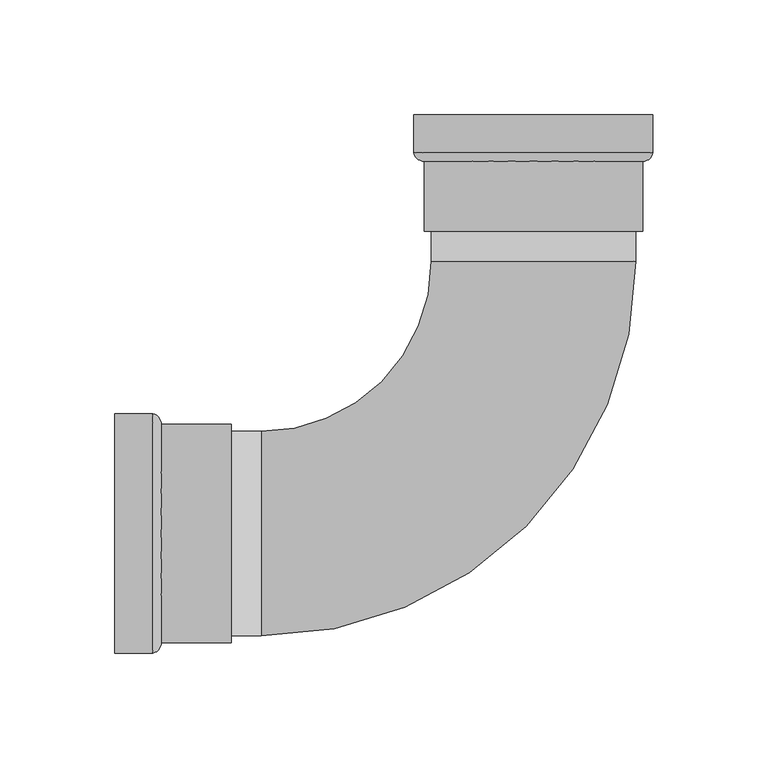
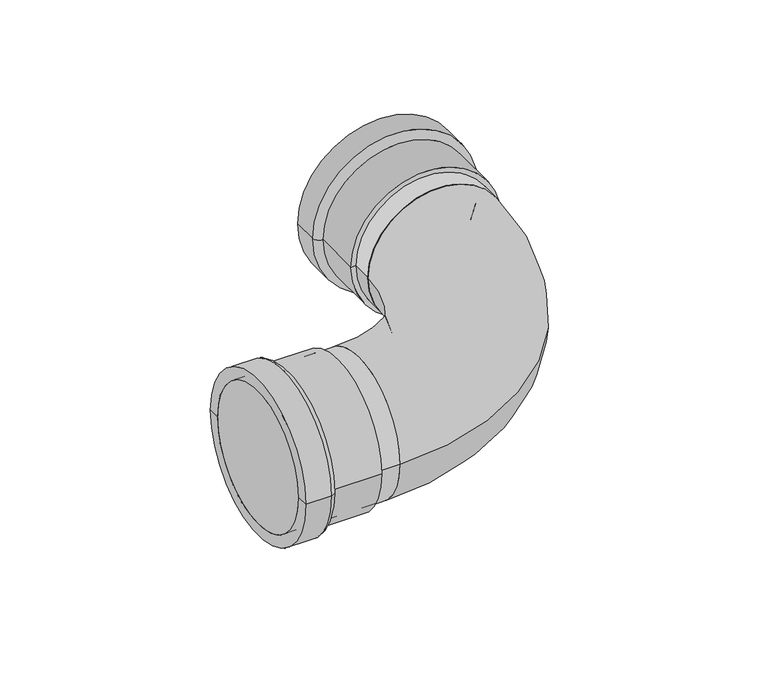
"""IFC4 building model written with IfcOpenShell, lengths in millimetres: pipe fitting geometry, VALTEC_VTi.951.I_Угольник 90° (раструб-раструб) нержавеющая сталь : VTi.951.I."""

import ifcopenshell
import ifcopenshell.guid

model = None  # the IFC model being written
_history = None  # IfcOwnerHistory: only IFC2X3 demands one
_inside = {}  # id of a spatial element -> (the spatial element, [elements in it])
_under = {}  # id of a project, library or spatial element -> (it, [spatial elements below it])
_declared = {}  # id of a project -> (the project, [libraries it declares])
_typed = {}  # id of a type object -> (the type object, [elements of that type])
_made_of = {}  # id of a material, layer set ... -> (it, [elements and type objects made of it])


def new_model(schema):
    """Start an empty IFC model of exactly this schema.

    Asked for "IFC4X3", IfcOpenShell would pick the latest addendum, in which some entities
    have other attributes; the version numbers below select the first issue.
    IFC2X3 requires an IfcOwnerHistory on every rooted entity: one is made here for all.
    """
    global model, _history
    if schema == "IFC4X3":
        model = ifcopenshell.file(schema_version=(4, 3, 0, 0))
    else:
        model = ifcopenshell.file(schema=schema)
    _inside.clear()
    _under.clear()
    _declared.clear()
    _typed.clear()
    _made_of.clear()
    _history = None
    if model.schema == "IFC2X3":
        org = make("IfcOrganization", Name="unknown")
        user = make(
            "IfcPersonAndOrganization",
            ThePerson=make("IfcPerson", FamilyName="unknown"),
            TheOrganization=org,
        )
        app = make(
            "IfcApplication",
            ApplicationDeveloper=org,
            Version="unknown",
            ApplicationFullName="unknown",
            ApplicationIdentifier="unknown",
        )
        _history = make(
            "IfcOwnerHistory",
            OwningUser=user,
            OwningApplication=app,
            ChangeAction="ADDED",
            CreationDate=0,
        )
    return model


def make(cls, **values):
    """One entity of the class cls with the attributes given. An attribute that is None is left unset."""
    return model.create_entity(
        cls, **{name: value for name, value in values.items() if value is not None}
    )


def rooted(cls, **values):
    """An entity with a GlobalId (a new one), such as an element, a storey or a relation."""
    return make(cls, GlobalId=ifcopenshell.guid.new(), OwnerHistory=_history, **values)


def si_unit(unit_type, name, prefix=None):
    """IfcSIUnit, for example si_unit("LENGTHUNIT", "METRE", prefix="MILLI")."""
    return make("IfcSIUnit", UnitType=unit_type, Prefix=prefix, Name=name)


def assignment(units):
    """IfcUnitAssignment: the units of a project."""
    return None if units is None else make("IfcUnitAssignment", Units=units)


def point(xyz):
    """IfcCartesianPoint."""
    return None if xyz is None else make("IfcCartesianPoint", Coordinates=xyz)


def direction(xyz):
    """IfcDirection."""
    return None if xyz is None else make("IfcDirection", DirectionRatios=xyz)


def frame(location, z_axis=None, x_axis=None):
    """IfcAxis2Placement3D, a coordinate frame: its origin and axes. An axis left out is left unset."""
    return make(
        "IfcAxis2Placement3D",
        Location=point(location),
        Axis=direction(z_axis),
        RefDirection=direction(x_axis),
    )


def frame_2d(location, x_axis=None):
    """IfcAxis2Placement2D, a coordinate frame in the plane: its origin and x axis."""
    return make(
        "IfcAxis2Placement2D", Location=point(location), RefDirection=direction(x_axis)
    )


def origin():
    """The frame at (0, 0, 0) with its axes left unset."""
    return frame((0.0, 0.0, 0.0))


def origin_2d():
    """The frame at (0, 0) in the plane with its x axis left unset."""
    return frame_2d((0.0, 0.0))


def place(relative_to, where):
    """IfcLocalPlacement: puts the frame where relative to a parent placement (None: the world)."""
    return make(
        "IfcLocalPlacement", PlacementRelTo=relative_to, RelativePlacement=where
    )


def context(
    kind, dimensions, precision=None, world=None, true_north=None, identifier=None
):
    """IfcGeometricRepresentationContext, for example the 3D "Model" context."""
    return make(
        "IfcGeometricRepresentationContext",
        ContextIdentifier=identifier,
        ContextType=kind,
        CoordinateSpaceDimension=dimensions,
        Precision=precision,
        WorldCoordinateSystem=world,
        TrueNorth=true_north,
    )


def project(units=None, contexts=None):
    """IfcProject with its units and contexts."""
    return rooted(
        "IfcProject",
        Name="project",
        RepresentationContexts=contexts,
        UnitsInContext=assignment(units),
    )


def spatial(cls, under=None, at=None, **own):
    """A site, building, storey or space (cls), placed at a placement, below another one or the project."""
    s = rooted(cls, ObjectPlacement=at, **own)
    if under is not None:
        _under.setdefault(under.id(), (under, []))[1].append(s)
    return s


def polyline(points):
    """IfcPolyline through the points."""
    return make("IfcPolyline", Points=[point(p) for p in points])


def circle_curve(where, radius):
    """IfcCircle in the frame where."""
    return make("IfcCircle", Position=where, Radius=radius)


def ellipse_curve(where, semi_axis1, semi_axis2):
    """IfcEllipse in the frame where."""
    return make(
        "IfcEllipse", Position=where, SemiAxis1=semi_axis1, SemiAxis2=semi_axis2
    )


def trimmed(basis, trim1, trim2, sense, master):
    """IfcTrimmedCurve: the piece of a basis curve between two trims."""
    return make(
        "IfcTrimmedCurve",
        BasisCurve=basis,
        Trim1=trim1,
        Trim2=trim2,
        SenseAgreement=sense,
        MasterRepresentation=master,
    )


def segment(curve, same_sense, transition):
    """IfcCompositeCurveSegment."""
    return make(
        "IfcCompositeCurveSegment",
        Transition=transition,
        SameSense=same_sense,
        ParentCurve=curve,
    )


def composite_curve(segments, self_intersect=None):
    """IfcCompositeCurve: segments joined end to end."""
    return make("IfcCompositeCurve", Segments=segments, SelfIntersect=self_intersect)


def outline(outer, holes=None, kind="AREA"):
    """IfcArbitraryClosedProfileDef: a profile drawn as a closed curve; with holes, ...WithVoids."""
    if holes is None:
        return make("IfcArbitraryClosedProfileDef", ProfileType=kind, OuterCurve=outer)
    return make(
        "IfcArbitraryProfileDefWithVoids",
        ProfileType=kind,
        OuterCurve=outer,
        InnerCurves=holes,
    )


def extrude(swept, where, along, depth):
    """IfcExtrudedAreaSolid: the profile swept, set in the frame where, extruded along a direction by depth."""
    return make(
        "IfcExtrudedAreaSolid",
        SweptArea=swept,
        Position=where,
        ExtrudedDirection=direction(along),
        Depth=depth,
    )


def shape(context_of_items, identifier, shape_type, items):
    """IfcShapeRepresentation: the items that make up one representation, for example the "Body"."""
    return make(
        "IfcShapeRepresentation",
        ContextOfItems=context_of_items,
        RepresentationIdentifier=identifier,
        RepresentationType=shape_type,
        Items=items,
    )


def source(mapping_origin, context_of_items, identifier, shape_type, items):
    """IfcRepresentationMap: a shape defined once, which mapped items show again and again."""
    return make(
        "IfcRepresentationMap",
        MappingOrigin=mapping_origin,
        MappedRepresentation=shape(context_of_items, identifier, shape_type, items),
    )


def transform(
    local_origin,
    x_axis=None,
    y_axis=None,
    z_axis=None,
    scale=None,
    scale2=None,
    scale3=None,
    uniform=True,
):
    """IfcCartesianTransformationOperator3D, or its non-uniform kind. x_axis, y_axis, z_axis: its Axis1, 2, 3."""
    if uniform:
        return make(
            "IfcCartesianTransformationOperator3D",
            Axis1=direction(x_axis),
            Axis2=direction(y_axis),
            LocalOrigin=point(local_origin),
            Scale=scale,
            Axis3=direction(z_axis),
        )
    return make(
        "IfcCartesianTransformationOperator3DnonUniform",
        Axis1=direction(x_axis),
        Axis2=direction(y_axis),
        LocalOrigin=point(local_origin),
        Scale=scale,
        Axis3=direction(z_axis),
        Scale2=scale2,
        Scale3=scale3,
    )


def mapped(mapping_source, mapping_target):
    """IfcMappedItem: shows the shape of a source again, moved by a transform."""
    return make(
        "IfcMappedItem", MappingSource=mapping_source, MappingTarget=mapping_target
    )


def made_of(thing, what):
    """Note that an element or type object is made of a material, layer set ...; save() writes the relation."""
    if what is not None:
        _made_of.setdefault(what.id(), (what, []))[1].append(thing)
    return thing


def element(
    cls,
    number,
    at=None,
    inside=None,
    cuts=None,
    type_object=None,
    material=None,
    context=None,
    identifier="Body",
    shape_type=None,
    held_by="IfcProductDefinitionShape",
    body=None,
    shapes=None,
    **own,
):
    """One element of the class cls, such as IfcWall. Its Tag is "e" and its number.

    at: its placement. inside: the storey or other place that contains it. cuts: it is an
    opening in that element (IfcRelVoidsElement). A single representation is given by context,
    identifier, shape_type and body (its items); several are given by shapes. held_by: the class
    of the entity that holds the representations. save() writes the other relations.
    """
    e = rooted(cls, Tag="e%d" % number, ObjectPlacement=at, **own)
    if body is not None:
        shapes = [shape(context, identifier, shape_type, body)]
    if shapes is not None:
        e.Representation = make(held_by, Representations=shapes)
    if inside is not None:
        _inside.setdefault(inside.id(), (inside, []))[1].append(e)
    if cuts is not None:
        rooted(
            "IfcRelVoidsElement", RelatingBuildingElement=cuts, RelatedOpeningElement=e
        )
    if type_object is not None:
        _typed.setdefault(type_object.id(), (type_object, []))[1].append(e)
    return made_of(e, material)


def aggregate(whole, parts):
    """IfcRelAggregates: a whole, such as a stair, and the parts it consists of."""
    return rooted("IfcRelAggregates", RelatingObject=whole, RelatedObjects=parts)


def save(model, path):
    """Write the relations noted so far, then the file.

    IfcRelAggregates (storeys below a building ...), IfcRelContainedInSpatialStructure (elements
    in a storey), IfcRelDefinesByType, IfcRelAssociatesMaterial and IfcRelDeclares: one each for
    every whole, place, type object, material and project.
    """
    for whole, parts in _under.values():
        aggregate(whole, parts)
    for where, things in _inside.values():
        rooted(
            "IfcRelContainedInSpatialStructure",
            RelatedElements=things,
            RelatingStructure=where,
        )
    for kind, things in _typed.values():
        rooted("IfcRelDefinesByType", RelatedObjects=things, RelatingType=kind)
    for what, things in _made_of.values():
        rooted("IfcRelAssociatesMaterial", RelatedObjects=things, RelatingMaterial=what)
    for by, libraries in _declared.values():
        rooted("IfcRelDeclares", RelatingContext=by, RelatedDefinitions=libraries)
    model.write(path)


def plane_surface(at):
    """IfcPlane: the flat surface through the origin of the frame at, square to its z axis."""
    return make("IfcPlane", Position=at)


def cylinder_surface(at, radius):
    """IfcCylindricalSurface: all points at the distance radius from the z axis of the frame at."""
    return make("IfcCylindricalSurface", Position=at, Radius=radius)


def revolved_surface(curve, axis_point, axis_direction):
    """IfcSurfaceOfRevolution: the curve turned about the line through axis_point along axis_direction."""
    return make(
        "IfcSurfaceOfRevolution",
        SweptCurve=make("IfcArbitraryOpenProfileDef", ProfileType="CURVE", Curve=curve),
        AxisPosition=make("IfcAxis1Placement", Location=point(axis_point), Axis=direction(axis_direction)),
    )


def advanced_brep(points, edges, surfaces, faces):
    """IfcAdvancedBrep: a solid bounded by faces that lie on surfaces and meet in shared edges.

    An edge is (start, end): straight between two places in points (the first is 0);
    or (start, end, curve); or (start, end, curve, False) where it runs against its curve.
    A face is (place in surfaces, loops), or (place, loops, False) where it looks against
    its surface's normal. A loop lists edges by number (the first is 1), with a minus sign
    where the edge is run from its end to its start. The first loop is the outer one.
    """
    corners = [point(p) for p in points]
    vertices = [make("IfcVertexPoint", VertexGeometry=c) for c in corners]
    made = []
    for start, end, *more in edges:
        made.append(
            make(
                "IfcEdgeCurve",
                EdgeStart=vertices[start],
                EdgeEnd=vertices[end],
                EdgeGeometry=more[0] if more else make("IfcPolyline", Points=[corners[start], corners[end]]),
                SameSense=more[1] if len(more) > 1 else True,
            )
        )
    hull = []
    for where, loops, *sense in faces:
        bounds = []
        for j, loop in enumerate(loops):
            ring = [make("IfcOrientedEdge", EdgeElement=made[abs(k) - 1], Orientation=k > 0) for k in loop]
            bounds.append(
                make(
                    "IfcFaceOuterBound" if j == 0 else "IfcFaceBound",
                    Bound=make("IfcEdgeLoop", EdgeList=ring),
                    Orientation=True,
                )
            )
        hull.append(make("IfcAdvancedFace", Bounds=bounds, FaceSurface=surfaces[where], SameSense=sense[0] if sense else True))
    return make("IfcAdvancedBrep", Outer=make("IfcClosedShell", CfsFaces=hull))


def pipe_fitting_ff2ef818(model_context):
    return source(origin(), model_context, "Body", "SolidModel", [
        advanced_brep(
        [(-182.0, -44.45, 0.0), (-182.0, 44.45, 0.0), (-182.0, 52.0, 0.0), (-182.0, -52.0, 0.0), (-131.5, -44.45, 0.0), (-131.5, 44.45, 0.0), (-131.5, -47.5, 0.0), (-131.5, 47.5, 0.0), (-161.89, -47.5, 0.0), (-161.89, 47.5, 0.0), (-165.6, -52.0, 0.0), (-165.6, 52.0, 0.0)],
        [
            (0, 1, circle_curve(frame((-182.0, 0.0, 0.0), z_axis=(1.0, 0.0, 0.0), x_axis=(0.0, 1.0, 0.0)), 44.45)),
            (1, 2),
            (2, 3, circle_curve(frame((-182.0, 0.0, 0.0), z_axis=(-1.0, 0.0, 0.0), x_axis=(0.0, 1.0, 0.0)), 52.0)),
            (3, 0),
            (1, 0, circle_curve(frame((-182.0, 0.0, 0.0), z_axis=(1.0, 0.0, 0.0), x_axis=(0.0, 1.0, 0.0)), 44.45)),
            (3, 2, circle_curve(frame((-182.0, 0.0, 0.0), z_axis=(-1.0, 0.0, 0.0), x_axis=(0.0, 1.0, 0.0)), 52.0)),
            (4, 5, circle_curve(frame((-131.5, 0.0, 0.0), z_axis=(1.0, 0.0, 0.0), x_axis=(0.0, 1.0, 0.0)), 44.45)),
            (5, 1),
            (0, 4),
            (5, 4, circle_curve(frame((-131.5, 0.0, 0.0), z_axis=(1.0, 0.0, 0.0), x_axis=(0.0, 1.0, 0.0)), 44.45)),
            (6, 7, circle_curve(frame((-131.5, 0.0, 0.0), z_axis=(1.0, 0.0, 0.0), x_axis=(0.0, 1.0, 0.0)), 47.5)),
            (7, 5),
            (4, 6),
            (7, 6, circle_curve(frame((-131.5, 0.0, 0.0), z_axis=(1.0, 0.0, 0.0), x_axis=(0.0, 1.0, 0.0)), 47.5)),
            (8, 9, circle_curve(frame((-161.89, 0.0, 0.0), z_axis=(1.0, 0.0, 0.0), x_axis=(0.0, 1.0, 0.0)), 47.5)),
            (9, 7),
            (6, 8),
            (9, 8, circle_curve(frame((-161.89, 0.0, 0.0), z_axis=(1.0, 0.0, 0.0), x_axis=(0.0, 1.0, 0.0)), 47.5)),
            (10, 11, circle_curve(frame((-165.6, 0.0, 0.0), z_axis=(1.0, 0.0, 0.0), x_axis=(0.0, 1.0, 0.0)), 52.0)),
            (11, 9, circle_curve(frame((-166.337843, 47.612345, 0.0), z_axis=(0.0, 0.0, -1.0), x_axis=(1.0, 0.0, 0.0)), 4.4492616)),
            (8, 10, circle_curve(frame((-166.337843, -47.612345, 0.0), z_axis=(0.0, 0.0, -1.0), x_axis=(1.0, 0.0, 0.0)), 4.4492616)),
            (11, 10, circle_curve(frame((-165.6, 0.0, 0.0), z_axis=(1.0, 0.0, 0.0), x_axis=(0.0, 1.0, 0.0)), 52.0)),
            (2, 11),
            (10, 3),
        ],
        [
            plane_surface(frame((-182.0, 0.0, 0.0), z_axis=(-1.0, 0.0, 0.0), x_axis=(0.0, 1.0, 0.0))),
            revolved_surface(polyline([(-182.0, 44.45, 0.0), (-131.5, 44.45, 0.0)]), (-152.2906392, 0.0, 0.0), (-1.0, 0.0, 0.0)),
            plane_surface(frame((-131.5, 0.0, 0.0), z_axis=(1.0, 0.0, 0.0), x_axis=(0.0, 1.0, 0.0))),
            cylinder_surface(frame((-152.2906392, 0.0, 0.0), z_axis=(-1.0, 0.0, 0.0), x_axis=(0.0, 1.0, 0.0)), 47.5),
            revolved_surface(trimmed(ellipse_curve(frame((-166.337843, 47.612345, 0.0), z_axis=(0.0, 0.0, 1.0), x_axis=(1.0, 0.0, 0.0)), 4.4492616, 4.4492616), [point((-161.89, 47.5, 0.0))], [point((-165.6, 52.0, 0.0))], True, "CARTESIAN"), (-152.2906392, 0.0, 0.0), (-1.0, 0.0, 0.0)),
            cylinder_surface(frame((-152.2906392, 0.0, 0.0), z_axis=(-1.0, 0.0, 0.0), x_axis=(0.0, 1.0, 0.0)), 52.0),
        ],
        [
            (0, [[1, 2, 3, 4]]),
            (0, [[5, -4, 6, -2]]),
            (1, [[7, 8, -1, 9]]),
            (1, [[10, -9, -5, -8]]),
            (2, [[11, 12, -7, 13]]),
            (2, [[14, -13, -10, -12]]),
            (3, [[15, 16, -11, 17]]),
            (3, [[18, -17, -14, -16]]),
            (4, [[19, 20, -15, 21]]),
            (4, [[22, -21, -18, -20]]),
            (5, [[-3, 23, -19, 24]]),
            (5, [[-6, -24, -22, -23]]),
        ],
    ),
        advanced_brep(
        [(-44.45, 182.0, 0.0), (44.45, 182.0, 0.0), (52.0, 182.0, 0.0), (-52.0, 182.0, 0.0), (-44.45, 131.5, 0.0), (44.45, 131.5, 0.0), (-47.5, 131.5, 0.0), (47.5, 131.5, 0.0), (-47.5, 161.89, 0.0), (47.5, 161.89, 0.0), (-52.0, 165.6, 0.0), (52.0, 165.6, 0.0)],
        [
            (0, 1, circle_curve(frame((0.0, 182.0, 0.0), z_axis=(0.0, -1.0, 0.0), x_axis=(1.0, 0.0, 0.0)), 44.45)),
            (1, 2),
            (2, 3, circle_curve(frame((0.0, 182.0, 0.0), z_axis=(0.0, 1.0, 0.0), x_axis=(1.0, 0.0, 0.0)), 52.0)),
            (3, 0),
            (1, 0, circle_curve(frame((0.0, 182.0, 0.0), z_axis=(0.0, -1.0, 0.0), x_axis=(1.0, 0.0, 0.0)), 44.45)),
            (3, 2, circle_curve(frame((0.0, 182.0, 0.0), z_axis=(0.0, 1.0, 0.0), x_axis=(1.0, 0.0, 0.0)), 52.0)),
            (4, 5, circle_curve(frame((0.0, 131.5, 0.0), z_axis=(0.0, -1.0, 0.0), x_axis=(1.0, 0.0, 0.0)), 44.45)),
            (5, 1),
            (0, 4),
            (5, 4, circle_curve(frame((0.0, 131.5, 0.0), z_axis=(0.0, -1.0, 0.0), x_axis=(1.0, 0.0, 0.0)), 44.45)),
            (6, 7, circle_curve(frame((0.0, 131.5, 0.0), z_axis=(0.0, -1.0, 0.0), x_axis=(1.0, 0.0, 0.0)), 47.5)),
            (7, 5),
            (4, 6),
            (7, 6, circle_curve(frame((0.0, 131.5, 0.0), z_axis=(0.0, -1.0, 0.0), x_axis=(1.0, 0.0, 0.0)), 47.5)),
            (8, 9, circle_curve(frame((0.0, 161.89, 0.0), z_axis=(0.0, -1.0, 0.0), x_axis=(1.0, 0.0, 0.0)), 47.5)),
            (9, 7),
            (6, 8),
            (9, 8, circle_curve(frame((0.0, 161.89, 0.0), z_axis=(0.0, -1.0, 0.0), x_axis=(1.0, 0.0, 0.0)), 47.5)),
            (10, 11, circle_curve(frame((0.0, 165.6, 0.0), z_axis=(0.0, -1.0, 0.0), x_axis=(1.0, 0.0, 0.0)), 52.0)),
            (11, 9, circle_curve(frame((47.612345, 166.337843, 0.0), z_axis=(0.0, 0.0, -1.0), x_axis=(0.0, -1.0, 0.0)), 4.4492616)),
            (8, 10, circle_curve(frame((-47.612345, 166.337843, 0.0), z_axis=(0.0, 0.0, -1.0), x_axis=(0.0, -1.0, 0.0)), 4.4492616)),
            (11, 10, circle_curve(frame((0.0, 165.6, 0.0), z_axis=(0.0, -1.0, 0.0), x_axis=(1.0, 0.0, 0.0)), 52.0)),
            (2, 11),
            (10, 3),
        ],
        [
            plane_surface(frame((0.0, 182.0, 0.0), z_axis=(0.0, 1.0, 0.0), x_axis=(1.0, 0.0, 0.0))),
            revolved_surface(polyline([(44.45, 182.0, 0.0), (44.45, 131.5, 0.0)]), (0.0, 152.2906392, 0.0), (0.0, 1.0, 0.0)),
            plane_surface(frame((0.0, 131.5, 0.0), z_axis=(0.0, -1.0, 0.0), x_axis=(1.0, 0.0, 0.0))),
            cylinder_surface(frame((0.0, 152.2906392, 0.0), z_axis=(0.0, 1.0, 0.0), x_axis=(1.0, 0.0, 0.0)), 47.5),
            revolved_surface(trimmed(ellipse_curve(frame((47.612345, 166.337843, 0.0), z_axis=(0.0, 0.0, 1.0), x_axis=(0.0, -1.0, 0.0)), 4.4492616, 4.4492616), [point((47.5, 161.89, 0.0))], [point((52.0, 165.6, 0.0))], True, "CARTESIAN"), (0.0, 152.2906392, 0.0), (0.0, 1.0, 0.0)),
            cylinder_surface(frame((0.0, 152.2906392, 0.0), z_axis=(0.0, 1.0, 0.0), x_axis=(1.0, 0.0, 0.0)), 52.0),
        ],
        [
            (0, [[1, 2, 3, 4]]),
            (0, [[5, -4, 6, -2]]),
            (1, [[7, 8, -1, 9]]),
            (1, [[10, -9, -5, -8]]),
            (2, [[11, 12, -7, 13]]),
            (2, [[14, -13, -10, -12]]),
            (3, [[15, 16, -11, 17]]),
            (3, [[18, -17, -14, -16]]),
            (4, [[19, 20, -15, 21]]),
            (4, [[22, -21, -18, -20]]),
            (5, [[-3, 23, -19, 24]]),
            (5, [[-6, -24, -22, -23]]),
        ],
    ),
        extrude(outline(composite_curve([segment(trimmed(circle_curve(origin_2d(), 44.45), [point((-44.45, 0.0))], [point((44.45, 0.0))], False, "CARTESIAN"), True, "CONTINUOUS"), segment(trimmed(circle_curve(origin_2d(), 44.45), [point((44.45, 0.0))], [point((-44.45, 0.0))], False, "CARTESIAN"), True, "CONTINUOUS")], self_intersect=False)), frame((-182.0, 0.0, 0.0), z_axis=(1.0, 0.0, 0.0), x_axis=(0.0, 1.0, 0.0)), (0.0, 0.0, 1.0), 63.7),
        extrude(outline(composite_curve([segment(trimmed(circle_curve(origin_2d(), 44.45), [point((0.0, -44.45))], [point((0.0, 44.45))], False, "CARTESIAN"), True, "CONTINUOUS"), segment(trimmed(circle_curve(origin_2d(), 44.45), [point((0.0, 44.45))], [point((0.0, -44.45))], False, "CARTESIAN"), True, "CONTINUOUS")], self_intersect=False)), frame((0.0, 118.3, 0.0), z_axis=(0.0, 1.0, 0.0), x_axis=(0.0, 0.0, 1.0)), (0.0, 0.0, 1.0), 63.7),
        advanced_brep(
        [(-118.3, -44.5051605, 0.0), (-118.3, 44.3948395, 0.0), (44.5051605, 118.3, 0.0), (-44.3948395, 118.3, 0.0)],
        [
            (0, 1, circle_curve(frame((-118.3, -0.0551605, 0.0), z_axis=(-1.0, 0.0, 0.0), x_axis=(0.0, 1.0, 0.0)), 44.45)),
            (1, 0, circle_curve(frame((-118.3, -0.0551605, 0.0), z_axis=(-1.0, 0.0, 0.0), x_axis=(0.0, 1.0, 0.0)), 44.45)),
            (2, 3, circle_curve(frame((0.0551605, 118.3, 0.0), z_axis=(0.0, 1.0, 0.0), x_axis=(-1.0, 0.0, 0.0)), 44.45)),
            (3, 2, circle_curve(frame((0.0551605, 118.3, 0.0), z_axis=(0.0, 1.0, 0.0), x_axis=(-1.0, 0.0, 0.0)), 44.45)),
            (3, 1, circle_curve(frame((-118.3, 118.3, 0.0), z_axis=(0.0, 0.0, -1.0), x_axis=(0.0, -1.0, 0.0)), 73.9051605)),
            (0, 2, circle_curve(frame((-118.3, 118.3, 0.0), z_axis=(0.0, 0.0, 1.0), x_axis=(0.0, -1.0, 0.0)), 162.8051605)),
        ],
        [
            plane_surface(frame((-118.3, 0.0, 0.0), z_axis=(-1.0, 0.0, 0.0), x_axis=(0.0, 0.0, 1.0))),
            plane_surface(frame((0.0, 118.3, 0.0), z_axis=(0.0, 1.0, 0.0), x_axis=(0.0, 0.0, 1.0))),
            revolved_surface(trimmed(ellipse_curve(frame((-118.3, -0.0551605, 0.0), z_axis=(-1.0, 0.0, 0.0), x_axis=(0.0, 1.0, 0.0)), 44.45, 44.45), [point((-118.3, -44.5051605, 0.0))], [point((-118.3, 44.3948395, 0.0))], True, "CARTESIAN"), (-118.3, 118.3, 0.0), (0.0, 0.0, 1.0)),
            revolved_surface(trimmed(ellipse_curve(frame((-118.3, -0.0551605, 0.0), z_axis=(-1.0, 0.0, 0.0), x_axis=(0.0, 1.0, 0.0)), 44.45, 44.45), [point((-118.3, 44.3948395, 0.0))], [point((-118.3, -44.5051605, 0.0))], True, "CARTESIAN"), (-118.3, 118.3, 0.0), (0.0, 0.0, 1.0)),
        ],
        [
            (0, [[1, 2]]),
            (1, [[3, 4]]),
            (2, [[5, -1, 6, -4]]),
            (3, [[-6, -2, -5, -3]]),
        ],
    ),
    ])


if __name__ == "__main__":
    model = new_model("IFC4")
    model_context = context("Model", 3, world=origin())
    ifc_project = project(units=[si_unit("LENGTHUNIT", "METRE", prefix="MILLI")], contexts=[model_context])
    site = spatial("IfcSite", under=ifc_project)
    building = spatial("IfcBuilding", under=site)
    placement = place(None, origin())
    pipe_fitting_shape = pipe_fitting_ff2ef818(model_context)
    element("IfcPipeFitting", 1, ObjectType="VALTEC_VTi.951.I_Угольник 90° (раструб-раструб) нержавеющая сталь : VTi.951.I", at=placement, inside=building, context=model_context, shape_type="MappedRepresentation", body=[
        mapped(pipe_fitting_shape, transform((0.0, 0.0, 0.0), x_axis=(1.0, 0.0, 0.0), y_axis=(0.0, 1.0, 0.0), z_axis=(0.0, 0.0, 1.0))),
    ])
    save(model, "model.ifc")
